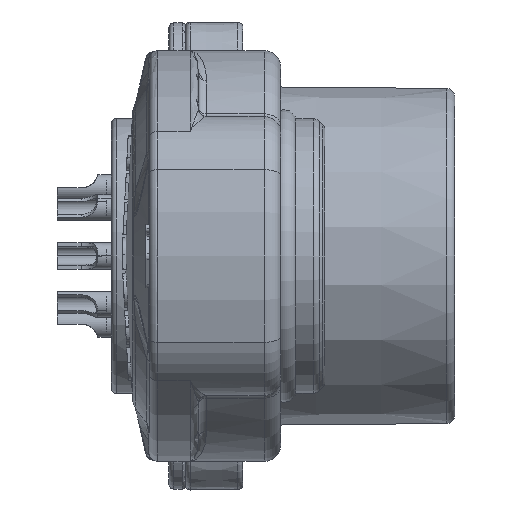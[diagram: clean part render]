
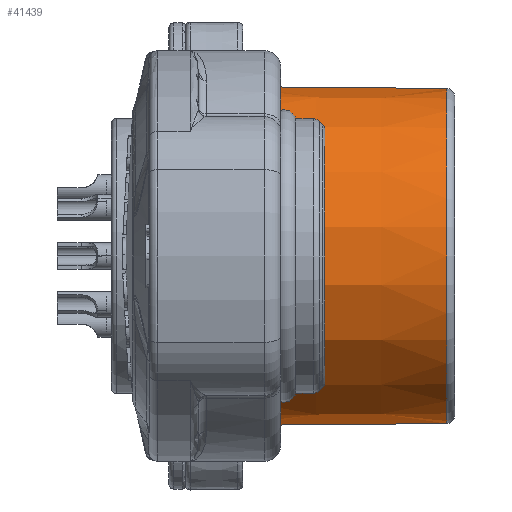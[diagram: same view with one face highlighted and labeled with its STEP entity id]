
A CAD part, front view. The second image highlights one B-rep face of the part: STEP entity #41439.
In plain terms, the highlighted conical face has half-angle 0.5 degrees and reference radius 10.2 mm.
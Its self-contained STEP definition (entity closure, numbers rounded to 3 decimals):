
#740 = VERTEX_POINT ( 'NONE', #23834 ) ;
#2485 = LINE ( 'NONE', #52033, #38649 ) ;
#5330 = AXIS2_PLACEMENT_3D ( 'NONE', #21560, #39621, #57069 ) ;
#5447 = CARTESIAN_POINT ( 'NONE',  ( 0., 0., 10.2 ) ) ;
#6466 = EDGE_CURVE ( 'NONE', #41365, #55828, #14502, .T. ) ;
#14502 = CIRCLE ( 'NONE', #23926, 10.308 ) ;
#17294 = DIRECTION ( 'NONE',  ( 0., 0., -1. ) ) ;
#17971 = VERTEX_POINT ( 'NONE', #21941 ) ;
#21560 = CARTESIAN_POINT ( 'NONE',  ( 0., 0., 0. ) ) ;
#21941 = CARTESIAN_POINT ( 'NONE',  ( -0.496, 0., 10.204 ) ) ;
#23217 = CIRCLE ( 'NONE', #39304, 10.204 ) ;
#23415 = CARTESIAN_POINT ( 'NONE',  ( -12.404, 0., 0. ) ) ;
#23834 = CARTESIAN_POINT ( 'NONE',  ( -0.496, 0., -10.204 ) ) ;
#23926 = AXIS2_PLACEMENT_3D ( 'NONE', #23415, #45914, #41172 ) ;
#24242 = DIRECTION ( 'NONE',  ( -1., 0., 0.009 ) ) ;
#25105 = EDGE_LOOP ( 'NONE', ( #26839, #54959, #42581, #43677 ) ) ;
#25571 = EDGE_CURVE ( 'NONE', #17971, #41365, #50572, .T. ) ;
#26839 = ORIENTED_EDGE ( 'NONE', *, *, #42395, .T. ) ;
#29517 = EDGE_CURVE ( 'NONE', #740, #55828, #2485, .T. ) ;
#34244 = VECTOR ( 'NONE', #24242, 1000. ) ;
#35296 = DIRECTION ( 'NONE',  ( -1., 0., 0. ) ) ;
#38649 = VECTOR ( 'NONE', #43172, 1000. ) ;
#39304 = AXIS2_PLACEMENT_3D ( 'NONE', #40904, #35296, #17294 ) ;
#39621 = DIRECTION ( 'NONE',  ( -1., 0., 0. ) ) ;
#40904 = CARTESIAN_POINT ( 'NONE',  ( -0.496, 0., 0. ) ) ;
#41172 = DIRECTION ( 'NONE',  ( 0., 0., 1. ) ) ;
#41365 = VERTEX_POINT ( 'NONE', #55906 ) ;
#41439 = ADVANCED_FACE ( 'NONE', ( #44339 ), #47711, .T. ) ;
#42395 = EDGE_CURVE ( 'NONE', #740, #17971, #23217, .T. ) ;
#42581 = ORIENTED_EDGE ( 'NONE', *, *, #6466, .T. ) ;
#43172 = DIRECTION ( 'NONE',  ( -1., 0., -0.009 ) ) ;
#43677 = ORIENTED_EDGE ( 'NONE', *, *, #29517, .F. ) ;
#44339 = FACE_OUTER_BOUND ( 'NONE', #25105, .T. ) ;
#45914 = DIRECTION ( 'NONE',  ( 1., 0., 0. ) ) ;
#47711 = CONICAL_SURFACE ( 'NONE', #5330, 10.2, 0.009 ) ;
#48750 = CARTESIAN_POINT ( 'NONE',  ( -12.404, 0., -10.308 ) ) ;
#50572 = LINE ( 'NONE', #5447, #34244 ) ;
#52033 = CARTESIAN_POINT ( 'NONE',  ( 0., 0., -10.2 ) ) ;
#54959 = ORIENTED_EDGE ( 'NONE', *, *, #25571, .T. ) ;
#55828 = VERTEX_POINT ( 'NONE', #48750 ) ;
#55906 = CARTESIAN_POINT ( 'NONE',  ( -12.404, 0., 10.308 ) ) ;
#57069 = DIRECTION ( 'NONE',  ( 0., 0., -1. ) ) ;
